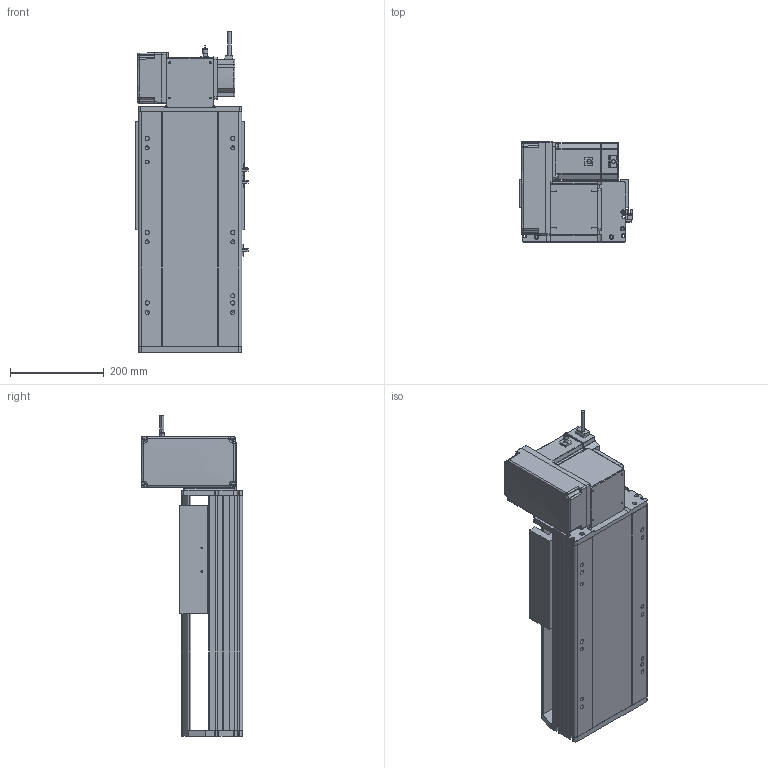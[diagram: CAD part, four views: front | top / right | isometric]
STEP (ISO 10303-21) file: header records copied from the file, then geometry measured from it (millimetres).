
FILE_DESCRIPTION (( 'STEP AP214' ), '1' );
FILE_NAME ('RTB22S-XX-150-LW-M75-C4.STEP', '2025-12-12T05:50:07', ( '' ), ( '' ), 'SwSTEP 2.0', 'SolidWorks 2018', '' );
FILE_SCHEMA (( 'AUTOMOTIVE_DESIGN' ));
Length unit declared in the file: millimetre
Products named in the file (14): RTB22S-GY-005P^RTB22S-LW-々湍釱蚾饜_RTB22S-XX-XX-LW-M75-C4; RTB22S-GY-017P^RTB22S-LW-々湍釱蚾饜_RTB22S-XX-XX-LW-M75-C4; RTB22S-XX-150-LW-M75-C4; RTB22S-GY-007奻裔^RTB22S-XX-XX-LW-M75-C4; RTB22S-L-004賑釱^RTB22S-XX-XX-LW-M75-C4; RTB22S-L-011菁釱^RTB22S-XX-XX-LW-M75-C4; RTB22S-GY-014--々湍釱^RTB22S-LW-々湍釱蚾饜_RTB22S-XX-XX-LW-M75-C4; RTB22S-GY-001耜裔^RTB22S-XX-XX-LW-M75-C4; RTH22-GY-013外置感应片^RTB22S-XX-XX-LW-M75-C4; OMRON EE-SX672 传感器^RTB22S-XX-XX-LW-M75-C4; RTB22S-LW-々湍釱蚾饜^RTB22S-XX-XX-LW-M75-C4; 750W萇儂^RTB22S-XX-XX-LW-M75-C4; RTB22S-GY-018P^RTB22S-LW-々湍釱蚾饜_RTB22S-XX-XX-LW-M75-C4; RTB22S-GY-008-M75--萇儂啣^RTB22S-LW-々湍釱蚾饜_RTB22S-XX-XX-LW-M75-C4
Assembly tree (16 placements, depth 3):
  RTB22S-XX-150-LW-M75-C4
    RTB22S-L-011菁釱^RTB22S-XX-XX-LW-M75-C4
    RTB22S-GY-001耜裔^RTB22S-XX-XX-LW-M75-C4
    750W萇儂^RTB22S-XX-XX-LW-M75-C4
    RTB22S-GY-007奻裔^RTB22S-XX-XX-LW-M75-C4
    RTB22S-L-004賑釱^RTB22S-XX-XX-LW-M75-C4
    RTH22-GY-013外置感应片^RTB22S-XX-XX-LW-M75-C4
    OMRON EE-SX672 传感器^RTB22S-XX-XX-LW-M75-C4  x3
    RTB22S-LW-々湍釱蚾饜^RTB22S-XX-XX-LW-M75-C4
      RTB22S-GY-014--々湍釱^RTB22S-LW-々湍釱蚾饜_RTB22S-XX-XX-LW-M75-C4
      RTB22S-GY-017P^RTB22S-LW-々湍釱蚾饜_RTB22S-XX-XX-LW-M75-C4  x2
      RTB22S-GY-005P^RTB22S-LW-々湍釱蚾饜_RTB22S-XX-XX-LW-M75-C4
      RTB22S-GY-008-M75--萇儂啣^RTB22S-LW-々湍釱蚾饜_RTB22S-XX-XX-LW-M75-C4
      RTB22S-GY-018P^RTB22S-LW-々湍釱蚾饜_RTB22S-XX-XX-LW-M75-C4
Bounding box: 238.5 x 215.5 x 682.2 mm (x, y, z)
Volume: 11388171.6 mm3; surface area: 1225614.3 mm2
Topology: 15 solids, 15 shells, 1893 faces, 5136 edges, 3302 vertices
Faces by surface type: plane 905, cylinder 562, bspline 296, cone 118, sphere 8, torus 4
Entity records: 49478 total; most frequent: CARTESIAN_POINT 14432, ORIENTED_EDGE 7100, DIRECTION 6744, EDGE_CURVE 3550, AXIS2_PLACEMENT_3D 2346, VERTEX_POINT 2306, LINE 2052, VECTOR 2052
